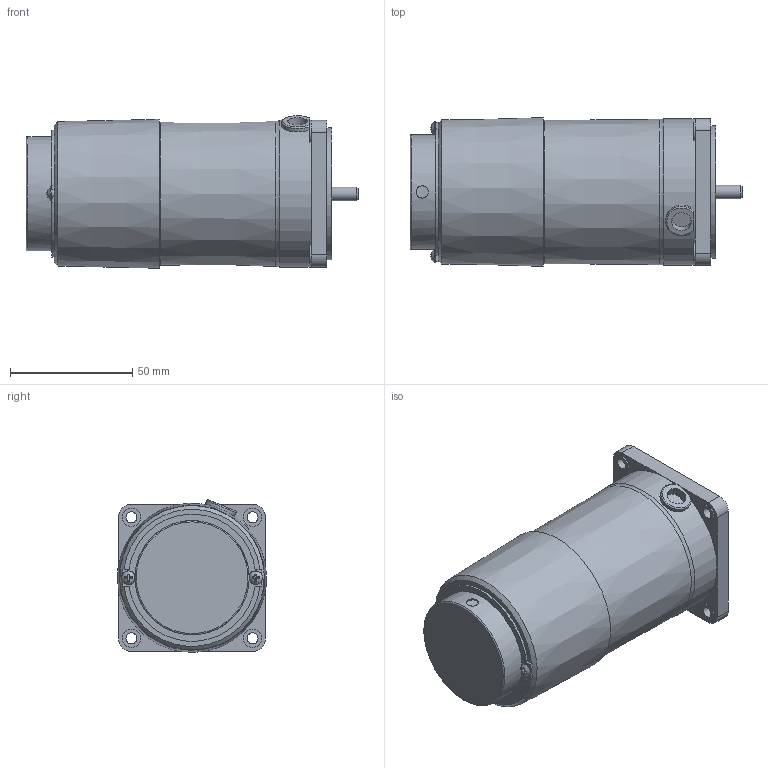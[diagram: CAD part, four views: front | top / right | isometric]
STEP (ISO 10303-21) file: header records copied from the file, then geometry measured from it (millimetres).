
FILE_DESCRIPTION((''),'2;1');
FILE_NAME('D:\김성묵\업무폴더\개발 파일\프로젝트 개발 AB등급\AC표준형 개발자료\90각 이하 표준형 개발\도면작성 자료\3D 도면\홈페이지용 3D 파일\6W MOTOR\ES TYPE\S6R06G-ES.stp','2015-03-30T19:35:43',('smkim'),(''),'Autodesk Inventor 2012','Autodesk Inventor 2012','');
FILE_SCHEMA(('AUTOMOTIVE_DESIGN { 1 0 10303 214 1 1 1 1 }'));
Length unit declared in the file: millimetre
Products named in the file (1): 부품90
Bounding box: 135.7 x 60.85 x 62.34 mm (x, y, z)
Volume: 333767.8 mm3; surface area: 32741.5 mm2
Topology: 1 solids, 3 shells, 154 faces, 401 edges, 259 vertices
Faces by surface type: plane 91, cylinder 49, torus 7, cone 5, bspline 2
Full cylindrical faces by diameter (mm): 3 x2, 4.5 x4, 5 x1, 5.57 x1, 7.5 x4, 8 x1, 10.1 x1, 25 x1, 46.7 x1, 54 x1, 58.5 x1, 60 x1
Entity records: 4962 total; most frequent: CARTESIAN_POINT 1221, DIRECTION 754, ORIENTED_EDGE 724, EDGE_CURVE 362, AXIS2_PLACEMENT_3D 281, VERTEX_POINT 250, EDGE_LOOP 212, VECTOR 192
